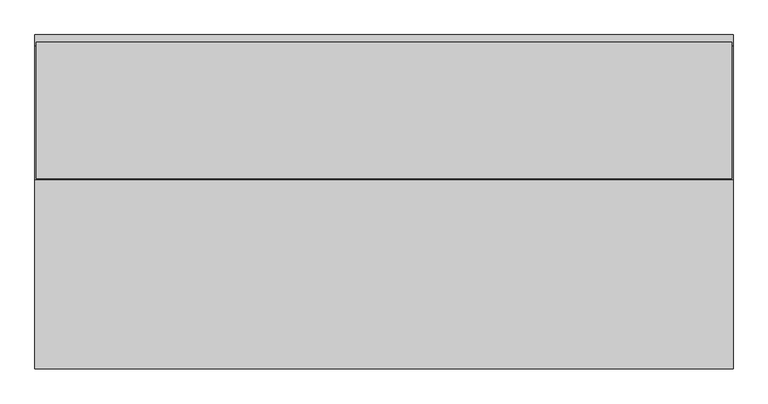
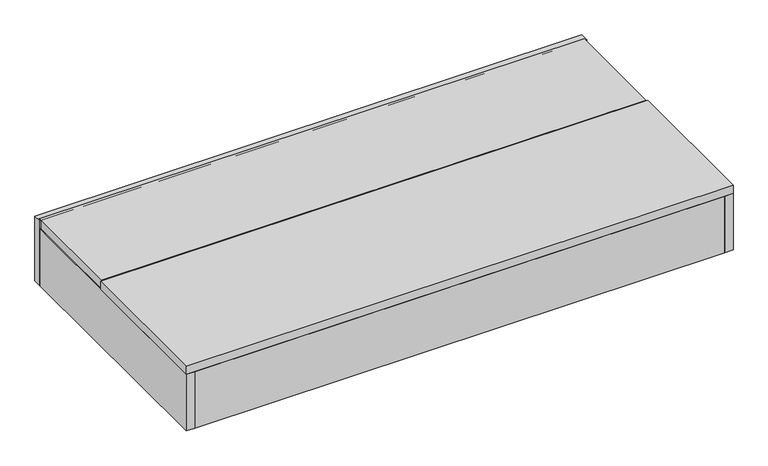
"""IFC4 building model written with IfcOpenShell, lengths in millimetres: proxy geometry, AERO^OFFICE 3_6x48 WIRE WALL-PARTS SOLID."""

from ifc_helpers import new_model, si_unit, frame, origin, origin_with_axes, place, context, project, spatial, polyline, outline, extrude, source, transform, mapped, element, save


def generic_models_aba46bb3(model_context):
    return source(origin(), model_context, "Body", "SweptSolid", [
        extrude(outline(polyline([(619.125, -546.1), (600.075, -546.1), (600.075, 0.0), (619.125, 0.0), (619.125, -546.1)])), frame((0.0, 0.0, -114.3), z_axis=(0.0, 0.0, 1.0), x_axis=(1.0, 0.0, 0.0)), (0.0, 0.0, 1.0), 114.3),
        extrude(outline(polyline([(1219.2, -234.95), (1219.2, -565.15), (0.0, -565.15), (0.0, -234.95), (1219.2, -234.95)])), origin_with_axes(), (0.0, 0.0, 1.0), 19.05),
        extrude(outline(polyline([(1200.15, -469.9), (1200.15, -546.1), (19.05, -546.1), (19.05, -469.9), (1200.15, -469.9)])), frame((0.0, 0.0, -133.35), z_axis=(0.0, 0.0, 1.0), x_axis=(1.0, 0.0, 0.0)), (0.0, 0.0, 1.0), 19.05),
        extrude(outline(polyline([(1200.15, 0.0), (1219.2, 0.0), (1219.2, -565.15), (1200.15, -565.15), (1200.15, 0.0)])), frame((0.0, 0.0, -133.35), z_axis=(0.0, 0.0, 1.0), x_axis=(1.0, 0.0, 0.0)), (0.0, 0.0, 1.0), 133.35),
        extrude(outline(polyline([(2.38125, 6.35), (1216.81875, 6.35), (1216.81875, -232.56875), (2.38125, -232.56875), (2.38125, 6.35)])), origin_with_axes(), (0.0, 0.0, 1.0), 19.05),
        extrude(outline(polyline([(0.0, 0.0), (19.05, 0.0), (19.05, -565.15), (0.0, -565.15), (0.0, 0.0)])), frame((0.0, 0.0, -133.35), z_axis=(0.0, 0.0, 1.0), x_axis=(1.0, 0.0, 0.0)), (0.0, 0.0, 1.0), 133.35),
        extrude(outline(polyline([(19.05, -565.15), (19.05, -546.1), (1200.15, -546.1), (1200.15, -565.15), (19.05, -565.15)])), frame((0.0, 0.0, -133.35), z_axis=(0.0, 0.0, 1.0), x_axis=(1.0, 0.0, 0.0)), (0.0, 0.0, 1.0), 133.35),
        extrude(outline(polyline([(1219.2, 0.0), (0.0, 0.0), (0.0, 19.05), (1219.2, 19.05), (1219.2, 0.0)])), frame((0.0, 0.0, -133.35), z_axis=(0.0, 0.0, 1.0), x_axis=(1.0, 0.0, 0.0)), (0.0, 0.0, 1.0), 152.4),
    ])


if __name__ == "__main__":
    model = new_model("IFC4")
    model_context = context("Model", 3, world=origin())
    ifc_project = project(units=[si_unit("LENGTHUNIT", "METRE", prefix="MILLI")], contexts=[model_context])
    site = spatial("IfcSite", under=ifc_project)
    building = spatial("IfcBuilding", under=site)
    placement = place(None, origin())
    generic_models_shape = generic_models_aba46bb3(model_context)
    element("IfcBuildingElementProxy", 1, Name="AERO^OFFICE 3_6x48 WIRE WALL-PARTS SOLID", ObjectType="AERO^OFFICE 3_6x48 WIRE WALL-PARTS SOLID", at=placement, inside=building, context=model_context, shape_type="MappedRepresentation", body=[
        mapped(generic_models_shape, transform((0.0, 0.0, 0.0), x_axis=(1.0, 0.0, 0.0), y_axis=(0.0, 1.0, 0.0), z_axis=(0.0, 0.0, 1.0))),
    ])
    save(model, "model.ifc")
